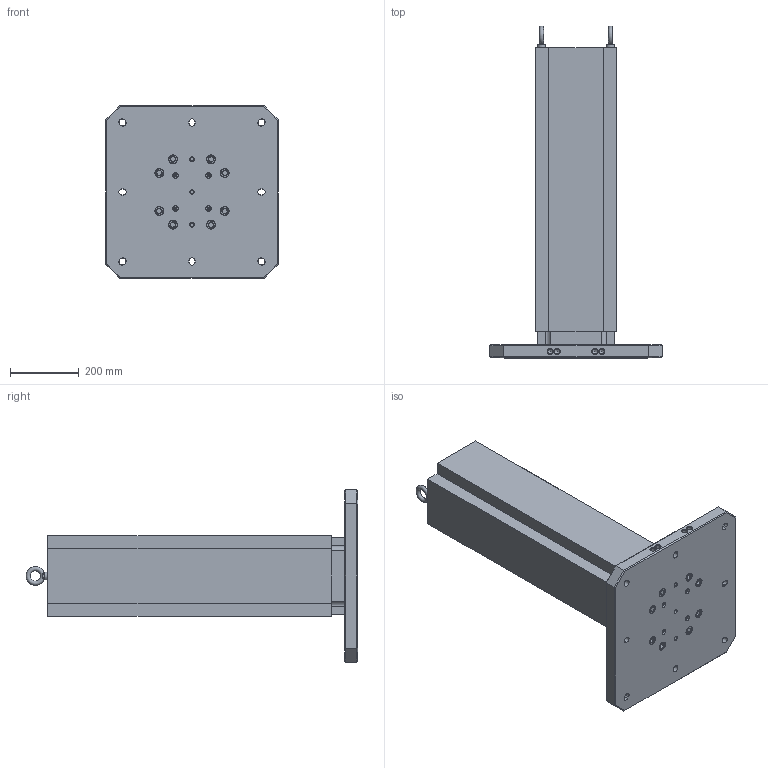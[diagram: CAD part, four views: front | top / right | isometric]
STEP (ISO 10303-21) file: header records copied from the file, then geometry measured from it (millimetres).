
FILE_DESCRIPTION (( 'STEP AP214' ), '1' );
FILE_NAME ('MTA-5004U-900_WEBSITE.step', '2025-08-11T13:00:10', ( '' ), ( '' ), 'SwSTEP 2.0', 'SolidWorks 2024', '' );
FILE_SCHEMA (( 'AUTOMOTIVE_DESIGN' ));
Length unit declared in the file: millimetre
Products named in the file (7): RL96-5004BUA_WEBSITE; HW.76452_dev_WEBSITE_91290A835; MTA-5004U-900_WEBSITE; MT-4862A_WEBSITE_MT-4600A; RL96-14TC_WEBSITE; HW.76172_WEBSITE; M12X24MM.EB (McM 3040T15)_WEBSITE_3040T15
Assembly tree (17 placements, depth 2):
  MTA-5004U-900_WEBSITE
    RL96-5004BUA_WEBSITE
    MT-4862A_WEBSITE_MT-4600A
    RL96-14TC_WEBSITE
    HW.76172_WEBSITE  x4
    M12X24MM.EB (McM 3040T15)_WEBSITE_3040T15  x2
    HW.76452_dev_WEBSITE_91290A835  x8
Bounding box: 500 x 962.82 x 500 mm (x, y, z)
Volume: 37499503.4 mm3; surface area: 2025212.9 mm2
Topology: 17 solids, 17 shells, 591 faces, 1296 edges, 798 vertices
Faces by surface type: plane 313, cylinder 162, cone 114, torus 2
Full cylindrical faces by diameter (mm): 5 x4, 6 x4, 6.6 x4, 8.5 x4, 10 x4, 10.025 x4, 10.2 x4, 11 x4, 12 x3, 14 x13, 16 x8, 16.02 x4, 17.5 x16, 23 x2, 24 x8, 26 x8
Entity records: 11767 total; most frequent: CARTESIAN_POINT 2017, DIRECTION 1914, ORIENTED_EDGE 1602, EDGE_CURVE 801, AXIS2_PLACEMENT_3D 718, EDGE_LOOP 596, VERTEX_POINT 571, VECTOR 478
